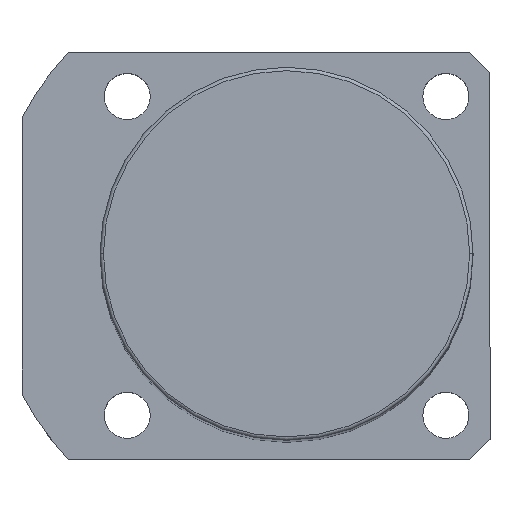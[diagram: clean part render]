
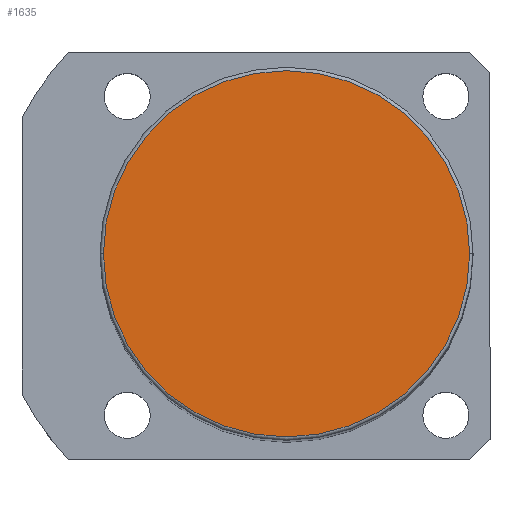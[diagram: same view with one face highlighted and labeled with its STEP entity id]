
A CAD part, top view. The second image highlights one B-rep face of the part: STEP entity #1635.
In plain terms, the highlighted planar face has unit normal (0, 0, 1).
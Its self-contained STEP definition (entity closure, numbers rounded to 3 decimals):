
#182 = ORIENTED_EDGE ( 'NONE', *, *, #489, .T. ) ;
#204 = VERTEX_POINT ( 'NONE', #679 ) ;
#221 = DIRECTION ( 'NONE',  ( 1., 0., 0. ) ) ;
#247 = CARTESIAN_POINT ( 'NONE',  ( 0., 0., 186. ) ) ;
#322 = ORIENTED_EDGE ( 'NONE', *, *, #1581, .T. ) ;
#445 = CARTESIAN_POINT ( 'NONE',  ( 27., 0., 186. ) ) ;
#489 = EDGE_CURVE ( 'NONE', #1854, #204, #873, .T. ) ;
#545 = PLANE ( 'NONE',  #710 ) ;
#560 = CIRCLE ( 'NONE', #1054, 27. ) ;
#679 = CARTESIAN_POINT ( 'NONE',  ( -27., 0., 186. ) ) ;
#704 = DIRECTION ( 'NONE',  ( 0., 0., 1. ) ) ;
#710 = AXIS2_PLACEMENT_3D ( 'NONE', #1305, #1013, #1452 ) ;
#839 = CARTESIAN_POINT ( 'NONE',  ( 0., 0., 186. ) ) ;
#873 = CIRCLE ( 'NONE', #1791, 27. ) ;
#1013 = DIRECTION ( 'NONE',  ( 0., 0., 1. ) ) ;
#1054 = AXIS2_PLACEMENT_3D ( 'NONE', #247, #704, #1615 ) ;
#1086 = FACE_OUTER_BOUND ( 'NONE', #1259, .T. ) ;
#1259 = EDGE_LOOP ( 'NONE', ( #182, #322 ) ) ;
#1305 = CARTESIAN_POINT ( 'NONE',  ( 0., 0., 186. ) ) ;
#1452 = DIRECTION ( 'NONE',  ( 1., 0., 0. ) ) ;
#1581 = EDGE_CURVE ( 'NONE', #204, #1854, #560, .T. ) ;
#1615 = DIRECTION ( 'NONE',  ( 1., 0., 0. ) ) ;
#1635 = ADVANCED_FACE ( 'NONE', ( #1086 ), #545, .T. ) ;
#1791 = AXIS2_PLACEMENT_3D ( 'NONE', #839, #1897, #221 ) ;
#1854 = VERTEX_POINT ( 'NONE', #445 ) ;
#1897 = DIRECTION ( 'NONE',  ( 0., 0., 1. ) ) ;
